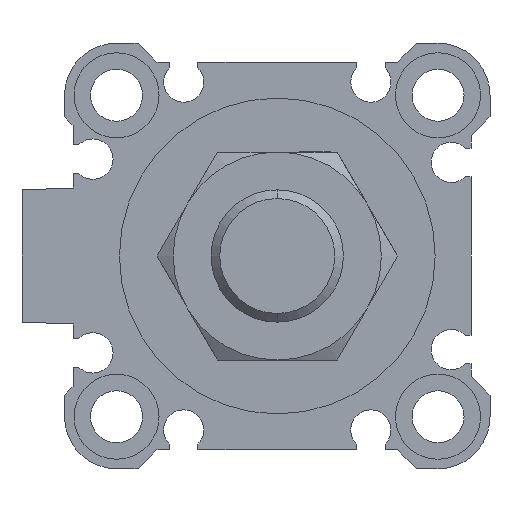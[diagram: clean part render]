
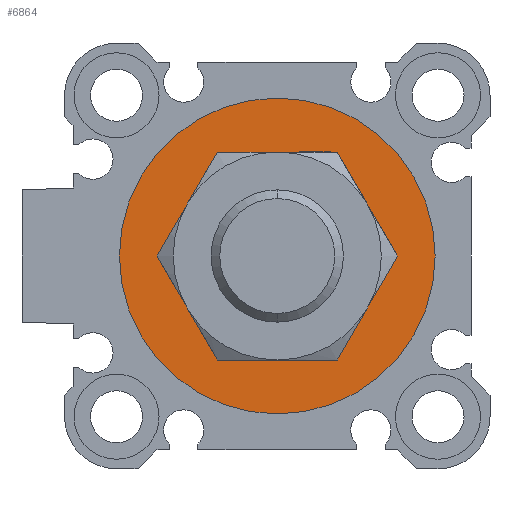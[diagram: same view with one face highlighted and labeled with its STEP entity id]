
A CAD part, left-side view. The second image highlights one B-rep face of the part: STEP entity #6864.
In plain terms, the highlighted planar face has unit normal (-1, 0, 0).
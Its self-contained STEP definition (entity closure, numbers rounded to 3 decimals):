
#21 = CIRCLE ( 'NONE', #1038, 16.7 ) ;
#564 = ORIENTED_EDGE ( 'NONE', *, *, #5431, .F. ) ;
#584 = CIRCLE ( 'NONE', #5110, 10.5 ) ;
#829 = DIRECTION ( 'NONE',  ( 0., 0., -1. ) ) ;
#1025 = DIRECTION ( 'NONE',  ( 1., 0., 0. ) ) ;
#1038 = AXIS2_PLACEMENT_3D ( 'NONE', #3722, #1025, #5946 ) ;
#1423 = PLANE ( 'NONE',  #5196 ) ;
#1925 = DIRECTION ( 'NONE',  ( 1., 0., 0. ) ) ;
#2076 = CARTESIAN_POINT ( 'NONE',  ( 2.1, 0., -16.7 ) ) ;
#2435 = CARTESIAN_POINT ( 'NONE',  ( 2.1, 0., -10.5 ) ) ;
#2528 = FACE_BOUND ( 'NONE', #6824, .T. ) ;
#2594 = DIRECTION ( 'NONE',  ( 1., 0., 0. ) ) ;
#2621 = DIRECTION ( 'NONE',  ( 0., 0., -1. ) ) ;
#2828 = DIRECTION ( 'NONE',  ( 0., 0., -1. ) ) ;
#3079 = ORIENTED_EDGE ( 'NONE', *, *, #5411, .T. ) ;
#3287 = VERTEX_POINT ( 'NONE', #2435 ) ;
#3522 = CARTESIAN_POINT ( 'NONE',  ( 2.1, 0., 0. ) ) ;
#3592 = DIRECTION ( 'NONE',  ( 0., 1., 0. ) ) ;
#3629 = CARTESIAN_POINT ( 'NONE',  ( 2.1, 0., 0. ) ) ;
#3715 = CARTESIAN_POINT ( 'NONE',  ( 2.1, 0., 16.7 ) ) ;
#3722 = CARTESIAN_POINT ( 'NONE',  ( 2.1, 0., 0. ) ) ;
#3936 = CARTESIAN_POINT ( 'NONE',  ( 2.1, 0., 10.5 ) ) ;
#4222 = EDGE_CURVE ( 'NONE', #4540, #3287, #6320, .T. ) ;
#4298 = ORIENTED_EDGE ( 'NONE', *, *, #4879, .F. ) ;
#4385 = DIRECTION ( 'NONE',  ( 1., 0., 0. ) ) ;
#4404 = AXIS2_PLACEMENT_3D ( 'NONE', #3522, #1925, #829 ) ;
#4540 = VERTEX_POINT ( 'NONE', #3936 ) ;
#4879 = EDGE_CURVE ( 'NONE', #5700, #6123, #5197, .T. ) ;
#5110 = AXIS2_PLACEMENT_3D ( 'NONE', #5316, #6946, #2621 ) ;
#5196 = AXIS2_PLACEMENT_3D ( 'NONE', #3629, #2594, #3592 ) ;
#5197 = CIRCLE ( 'NONE', #6561, 16.7 ) ;
#5248 = FACE_OUTER_BOUND ( 'NONE', #5543, .T. ) ;
#5316 = CARTESIAN_POINT ( 'NONE',  ( 2.1, 0., 0. ) ) ;
#5411 = EDGE_CURVE ( 'NONE', #3287, #4540, #584, .T. ) ;
#5431 = EDGE_CURVE ( 'NONE', #6123, #5700, #21, .T. ) ;
#5538 = ORIENTED_EDGE ( 'NONE', *, *, #4222, .T. ) ;
#5543 = EDGE_LOOP ( 'NONE', ( #4298, #564 ) ) ;
#5700 = VERTEX_POINT ( 'NONE', #3715 ) ;
#5946 = DIRECTION ( 'NONE',  ( 0., 0., -1. ) ) ;
#6079 = CARTESIAN_POINT ( 'NONE',  ( 2.1, 0., 0. ) ) ;
#6123 = VERTEX_POINT ( 'NONE', #2076 ) ;
#6320 = CIRCLE ( 'NONE', #4404, 10.5 ) ;
#6561 = AXIS2_PLACEMENT_3D ( 'NONE', #6079, #4385, #2828 ) ;
#6824 = EDGE_LOOP ( 'NONE', ( #5538, #3079 ) ) ;
#6864 = ADVANCED_FACE ( 'NONE', ( #5248, #2528 ), #1423, .F. ) ;
#6946 = DIRECTION ( 'NONE',  ( 1., 0., 0. ) ) ;
